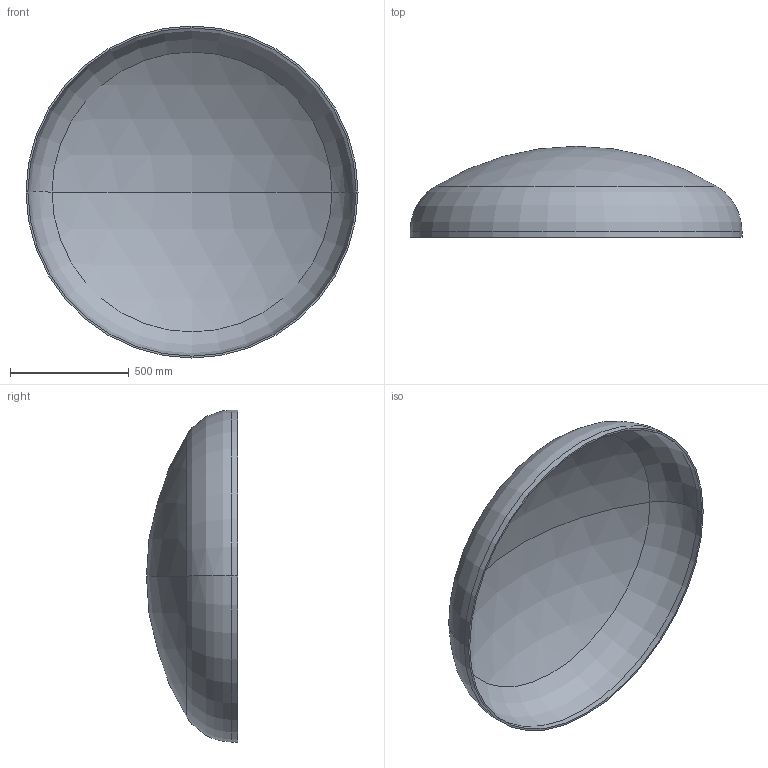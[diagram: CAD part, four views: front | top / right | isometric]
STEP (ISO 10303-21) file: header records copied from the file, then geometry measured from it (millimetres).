
FILE_DESCRIPTION (( 'STEP AP203' ), '1' );
FILE_NAME ('DIN 28013 Korbbogenform_-_Boden DIN 28013 - 1400 x 25 - I - s=8.step', '2016-07-01T10:06:42', ( '' ), ( '' ), 'SwSTEP 2.0', 'SolidWorks 2013', '' );
FILE_SCHEMA (( 'CONFIG_CONTROL_DESIGN' ));
Length unit declared in the file: millimetre
Products named in the file (1): DIN 28013 Korbbogenform_-_Boden DIN 28013 - 1400 x 25 - I - s=8
Bounding box: 1400 x 383.91 x 1400 mm (x, y, z)
Volume: 17793659.5 mm3; surface area: 4483531.9 mm2
Topology: 1 solids, 1 shells, 13 faces, 24 edges, 14 vertices
Faces by surface type: torus 4, cylinder 4, sphere 4, plane 1
Entity records: 407 total; most frequent: DIRECTION 72, CARTESIAN_POINT 52, ORIENTED_EDGE 48, AXIS2_PLACEMENT_3D 34, EDGE_CURVE 24, CIRCLE 20, VERTEX_POINT 14, EDGE_LOOP 14
